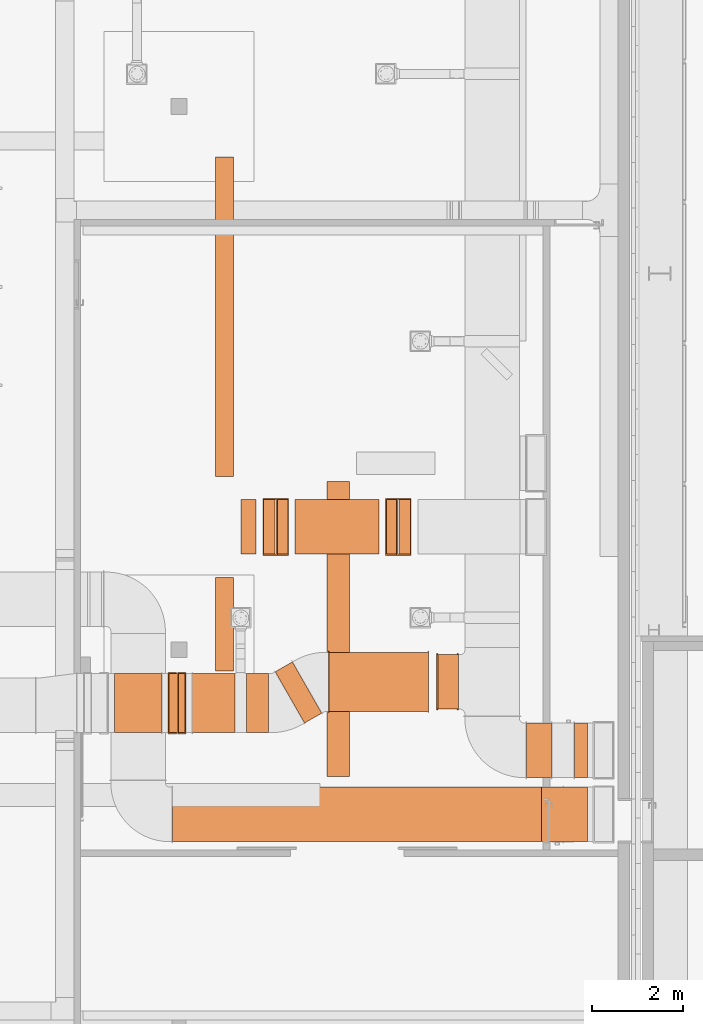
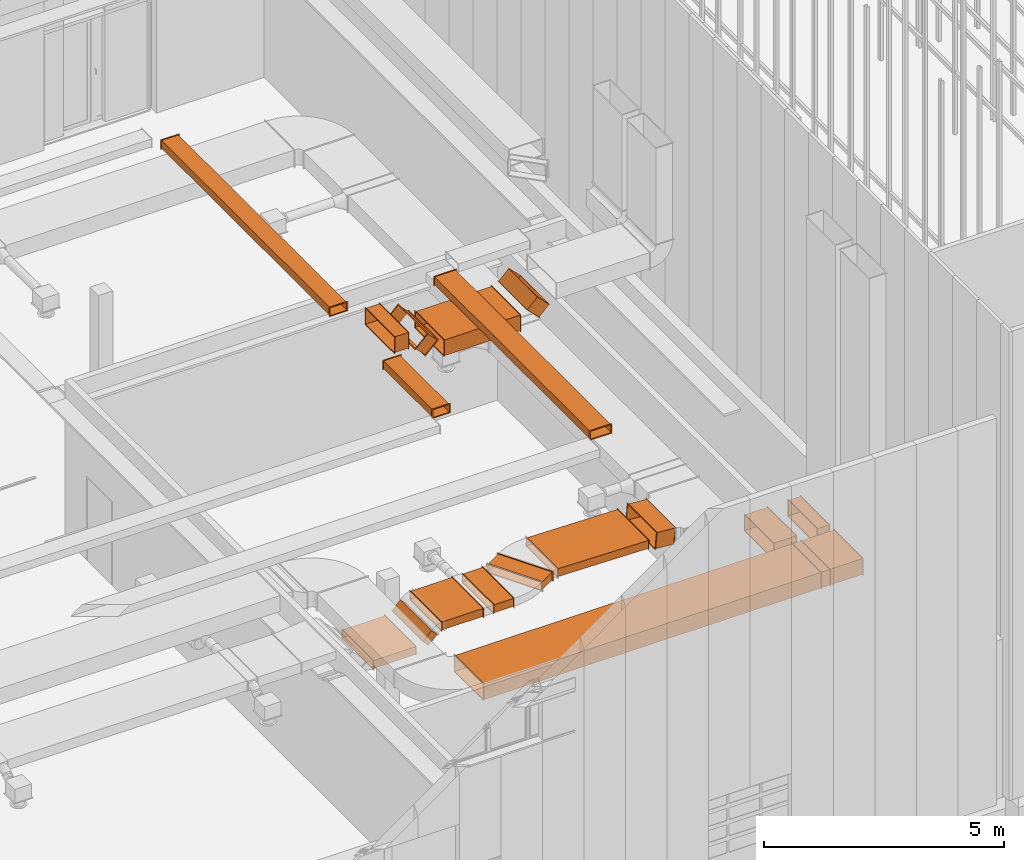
# One storey, part 299 of 302: 18 proxies.
"""IFC2X3 building model written with IfcOpenShell, lengths in metres."""

from ifc_helpers import new_model, entity, si_unit, converted_unit, derived_unit, direction, frame, origin, place, context, subcontext, project, spatial, face_set, surface_model, type_object, element, save


model = new_model("IFC2X3")

# Units and contexts
model_context = context("Model", 3, precision=1e-05, world=origin(), true_north=direction((6.12303176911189e-17, 1.0)))
body_context = subcontext(model_context, "Body", "Model", "MODEL_VIEW")
ifc_project = project(units=[si_unit("LENGTHUNIT", "METRE"), si_unit("AREAUNIT", "SQUARE_METRE"), si_unit("VOLUMEUNIT", "CUBIC_METRE"), converted_unit("PLANEANGLEUNIT", "DEGREE", entity("IfcRatioMeasure", 0.0174532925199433), si_unit("PLANEANGLEUNIT", "RADIAN"), dimensions=[0, 0, 0, 0, 0, 0, 0]), si_unit("MASSUNIT", "GRAM", prefix="KILO"), derived_unit("MASSDENSITYUNIT", [(si_unit("MASSUNIT", "GRAM", prefix="KILO"), 1), (si_unit("LENGTHUNIT", "METRE"), -3)]), derived_unit("MOMENTOFINERTIAUNIT", [(si_unit("LENGTHUNIT", "METRE"), 4)]), si_unit("TIMEUNIT", "SECOND"), si_unit("FREQUENCYUNIT", "HERTZ"), si_unit("THERMODYNAMICTEMPERATUREUNIT", "DEGREE_CELSIUS"), derived_unit("THERMALTRANSMITTANCEUNIT", [(si_unit("MASSUNIT", "GRAM", prefix="KILO"), 1), (si_unit("THERMODYNAMICTEMPERATUREUNIT", "KELVIN"), -1), (si_unit("TIMEUNIT", "SECOND"), -3)]), derived_unit("VOLUMETRICFLOWRATEUNIT", [(si_unit("LENGTHUNIT", "METRE"), 3), (si_unit("TIMEUNIT", "SECOND"), -1)]), si_unit("ELECTRICCURRENTUNIT", "AMPERE"), si_unit("ELECTRICVOLTAGEUNIT", "VOLT"), si_unit("POWERUNIT", "WATT"), si_unit("FORCEUNIT", "NEWTON", prefix="KILO"), si_unit("ILLUMINANCEUNIT", "LUX"), si_unit("LUMINOUSFLUXUNIT", "LUMEN"), si_unit("LUMINOUSINTENSITYUNIT", "CANDELA"), derived_unit("USERDEFINED", [(si_unit("MASSUNIT", "GRAM", prefix="KILO"), -1), (si_unit("LENGTHUNIT", "METRE"), -2), (si_unit("TIMEUNIT", "SECOND"), 3), (si_unit("LUMINOUSFLUXUNIT", "LUMEN"), 1)]), derived_unit("LINEARVELOCITYUNIT", [(si_unit("LENGTHUNIT", "METRE"), 1), (si_unit("TIMEUNIT", "SECOND"), -1)]), si_unit("PRESSUREUNIT", "PASCAL"), derived_unit("USERDEFINED", [(si_unit("LENGTHUNIT", "METRE"), -2), (si_unit("MASSUNIT", "GRAM", prefix="KILO"), 1), (si_unit("TIMEUNIT", "SECOND"), -2)]), derived_unit("LINEARFORCEUNIT", [(si_unit("MASSUNIT", "GRAM", prefix="KILO"), 1), (si_unit("LENGTHUNIT", "METRE"), 1), (si_unit("TIMEUNIT", "SECOND"), -2), (si_unit("LENGTHUNIT", "METRE"), -1)]), derived_unit("PLANARFORCEUNIT", [(si_unit("MASSUNIT", "GRAM", prefix="KILO"), 1), (si_unit("LENGTHUNIT", "METRE"), 1), (si_unit("TIMEUNIT", "SECOND"), -2), (si_unit("LENGTHUNIT", "METRE"), -2)])], contexts=[model_context])

# Site, building, storey
site_placement = place(None, origin())
site = spatial("IfcSite", under=ifc_project, at=site_placement, Name="Default", CompositionType="ELEMENT")
building_placement = place(site_placement, origin())
building = spatial("IfcBuilding", under=site, at=building_placement, CompositionType="ELEMENT")
storey_placement = place(building_placement, frame((0.0, 0.0, -1.3)))
storey = spatial("IfcBuildingStorey", under=building, at=storey_placement, Name="00_EG", CompositionType="ELEMENT", Elevation=-1.3)

# Proxies
building_element_proxy_type_1 = type_object("IfcBuildingElementProxyType", Name="Straight:Vorgabe", PredefinedType="NOTDEFINED")
proxy_1_placement = place(storey_placement, frame((-208.871606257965, 20.6086213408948, 4.68460000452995)))
element("IfcBuildingElementProxy", 1, at=proxy_1_placement, inside=storey, type_object=building_element_proxy_type_1, Name="Straight:Vorgabe", ObjectType="Straight:Vorgabe", context=body_context, shape_type="SurfaceModel", body=[
    surface_model("IfcFaceBasedSurfaceModel", [(0.29433768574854, 1.22540005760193, 0.425399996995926), (1.35561103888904e-09, 1.22540005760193, 0.425399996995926), (1.35561103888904e-09, 0.0254000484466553, 0.425399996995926), (0.29433768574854, 0.0254000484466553, 0.425399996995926), (1.35561103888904e-09, 0.0254000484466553, 0.0253999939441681), (0.29433768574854, 0.0254000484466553, 0.0253999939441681), (1.35561103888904e-09, 1.22540005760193, 0.0253999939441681), (0.29433768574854, 1.22540005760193, 0.0253999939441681), (0.294336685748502, 1.25080010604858, 0.0), (0.294336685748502, 1.25080010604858, 0.450799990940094), (0.294336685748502, 0.0, 0.450799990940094), (0.294336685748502, 0.0, 0.0), (9.82400380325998e-07, 0.0, 0.0), (9.82400380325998e-07, 0.0, 0.450799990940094), (9.82400380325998e-07, 1.25080010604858, 0.450799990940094), (9.82400380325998e-07, 1.25080010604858, 0.0)], [face_set([[[0, 1, 2]], [[2, 3, 0]], [[3, 2, 4]], [[4, 5, 3]], [[5, 4, 6]], [[6, 7, 5]], [[7, 6, 1]], [[1, 0, 7]], [[8, 7, 0]], [[0, 9, 8]], [[9, 0, 3]], [[3, 10, 9]], [[10, 3, 5]], [[5, 11, 10]], [[11, 5, 7]], [[7, 8, 11]], [[12, 4, 2]], [[2, 13, 12]], [[13, 2, 1]], [[1, 14, 13]], [[14, 1, 6]], [[6, 15, 14]], [[15, 6, 4]], [[4, 12, 15]]])]),
])
building_element_proxy_type_2 = type_object("IfcBuildingElementProxyType", Name="Straight:Vorgabe", PredefinedType="NOTDEFINED")
proxy_2_placement = place(storey_placement, frame((-209.597807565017, 19.1975856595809, 4.68460000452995)))
element("IfcBuildingElementProxy", 2, at=proxy_2_placement, inside=storey, type_object=building_element_proxy_type_2, Name="Straight:Vorgabe", ObjectType="Straight:Vorgabe", context=body_context, shape_type="SurfaceModel", body=[
    surface_model("IfcFaceBasedSurfaceModel", [(0.0, 0.0254000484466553, 0.425399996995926), (1.01231451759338, 0.0254000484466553, 0.425399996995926), (1.01231451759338, 1.22540005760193, 0.425399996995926), (0.0, 1.22540005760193, 0.425399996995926), (1.01231451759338, 1.22540005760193, 0.0253999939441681), (0.0, 1.22540005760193, 0.0253999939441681), (1.01231451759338, 0.0254000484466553, 0.0253999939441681), (0.0, 0.0254000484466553, 0.0253999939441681), (1.00000003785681e-06, 0.0, 0.0), (1.00000003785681e-06, 0.0, 0.450799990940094), (1.00000003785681e-06, 1.25080010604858, 0.450799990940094), (1.00000003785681e-06, 1.25080010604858, 0.0), (1.01231357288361, 1.25080010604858, 0.0), (1.01231357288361, 1.25080010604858, 0.450799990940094), (1.01231357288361, 0.0, 0.450799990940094), (1.01231357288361, 0.0, 0.0)], [face_set([[[0, 1, 2]], [[2, 3, 0]], [[3, 2, 4]], [[4, 5, 3]], [[5, 4, 6]], [[6, 7, 5]], [[7, 6, 1]], [[1, 0, 7]], [[8, 7, 0]], [[0, 9, 8]], [[9, 0, 3]], [[3, 10, 9]], [[10, 3, 5]], [[5, 11, 10]], [[11, 5, 7]], [[7, 8, 11]], [[12, 4, 2]], [[2, 13, 12]], [[13, 2, 1]], [[1, 14, 13]], [[14, 1, 6]], [[6, 15, 14]], [[15, 6, 4]], [[4, 12, 15]]])]),
])
building_element_proxy_type_3 = type_object("IfcBuildingElementProxyType", Name="Straight:Vorgabe", PredefinedType="NOTDEFINED")
proxy_3_placement = place(storey_placement, frame((-215.013870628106, 25.5256868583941, 8.65460000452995)))
element("IfcBuildingElementProxy", 3, at=proxy_3_placement, inside=storey, type_object=building_element_proxy_type_3, Name="Straight:Vorgabe", ObjectType="Straight:Vorgabe", context=body_context, shape_type="SurfaceModel", body=[
    surface_model("IfcFaceBasedSurfaceModel", [(0.0, 0.0254000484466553, 0.425399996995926), (1.83871625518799, 0.0254000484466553, 0.425399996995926), (1.83871625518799, 1.22540005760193, 0.425399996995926), (0.0, 1.22540005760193, 0.425399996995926), (1.83871625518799, 1.22540005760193, 0.0253999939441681), (0.0, 1.22540005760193, 0.0253999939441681), (1.83871625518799, 0.0254000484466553, 0.0253999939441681), (0.0, 0.0254000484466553, 0.0253999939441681), (1.00000003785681e-06, 0.0, 0.0), (1.00000003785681e-06, 0.0, 0.450799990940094), (1.00000003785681e-06, 1.25080010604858, 0.450799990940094), (1.00000003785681e-06, 1.25080010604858, 0.0), (1.83871523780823, 1.25080010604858, 0.0), (1.83871523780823, 1.25080010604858, 0.450799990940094), (1.83871523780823, 0.0, 0.450799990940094), (1.83871523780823, 0.0, 0.0)], [face_set([[[0, 1, 2]], [[2, 3, 0]], [[3, 2, 4]], [[4, 5, 3]], [[5, 4, 6]], [[6, 7, 5]], [[7, 6, 1]], [[1, 0, 7]], [[8, 7, 0]], [[0, 9, 8]], [[9, 0, 3]], [[3, 10, 9]], [[10, 3, 5]], [[5, 11, 10]], [[11, 5, 7]], [[7, 8, 11]], [[12, 4, 2]], [[2, 13, 12]], [[13, 2, 1]], [[1, 14, 13]], [[14, 1, 6]], [[6, 15, 14]], [[15, 6, 4]], [[4, 12, 15]]])]),
])
building_element_proxy_type_4 = type_object("IfcBuildingElementProxyType", Name="Straight:Vorgabe", PredefinedType="NOTDEFINED")
proxy_4_placement = place(storey_placement, frame((-217.717694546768, 19.1975806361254, 4.68460000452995)))
element("IfcBuildingElementProxy", 4, at=proxy_4_placement, inside=storey, type_object=building_element_proxy_type_4, Name="Straight:Vorgabe", ObjectType="Straight:Vorgabe", context=body_context, shape_type="SurfaceModel", body=[
    surface_model("IfcFaceBasedSurfaceModel", [(8.33988698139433, 1.22540005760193, 0.425399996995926), (1.08530557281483e-07, 1.22540005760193, 0.425399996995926), (1.08530557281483e-07, 0.0254000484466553, 0.425399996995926), (8.33988698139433, 0.0254000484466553, 0.425399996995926), (1.08530557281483e-07, 0.0254000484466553, 0.0253999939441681), (8.33988698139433, 0.0254000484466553, 0.0253999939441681), (1.08530557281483e-07, 1.22540005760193, 0.0253999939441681), (8.33988698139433, 1.22540005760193, 0.0253999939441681), (8.33988598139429, 1.25080010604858, 0.0), (8.33988598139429, 1.25080010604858, 0.450799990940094), (8.33988598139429, 0.0, 0.450799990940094), (8.33988598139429, 0.0, 0.0), (1.27125028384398e-06, 0.0, 0.0), (1.27125028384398e-06, 0.0, 0.450799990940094), (1.27125028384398e-06, 1.25080010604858, 0.450799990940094), (1.27125028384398e-06, 1.25080010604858, 0.0)], [face_set([[[0, 1, 2]], [[2, 3, 0]], [[3, 2, 4]], [[4, 5, 3]], [[5, 4, 6]], [[6, 7, 5]], [[7, 6, 1]], [[1, 0, 7]], [[8, 7, 0]], [[0, 9, 8]], [[9, 0, 3]], [[3, 10, 9]], [[10, 3, 5]], [[5, 11, 10]], [[11, 5, 7]], [[7, 8, 11]], [[12, 4, 2]], [[2, 13, 12]], [[13, 2, 1]], [[1, 14, 13]], [[14, 1, 6]], [[6, 15, 14]], [[15, 6, 4]], [[4, 12, 15]]])]),
])
building_element_proxy_type_5 = type_object("IfcBuildingElementProxyType", Name="Straight:Vorgabe", PredefinedType="NOTDEFINED")
proxy_5_placement = place(storey_placement, frame((-211.904311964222, 22.1170213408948, 4.6853505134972)))
element("IfcBuildingElementProxy", 5, at=proxy_5_placement, inside=storey, type_object=building_element_proxy_type_5, Name="Straight:Vorgabe", ObjectType="Straight:Vorgabe", context=body_context, shape_type="SurfaceModel", body=[
    surface_model("IfcFaceBasedSurfaceModel", [(0.485078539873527, 1.22540005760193, 0.423983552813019), (0.0346857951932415, 1.22540005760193, 0.460829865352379), (0.0346857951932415, 0.0254000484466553, 0.460829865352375), (0.485078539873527, 0.0254000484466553, 0.423983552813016), (0.00207103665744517, 0.0254000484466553, 0.062161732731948), (0.45246378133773, 0.0254000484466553, 0.0253154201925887), (0.00207103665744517, 1.22540005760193, 0.0621617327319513), (0.45246378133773, 1.22540005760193, 0.0253154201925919), (0.450391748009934, 1.25080010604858, 8.15369028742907e-08), (0.487148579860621, 1.25080010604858, 0.449299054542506), (0.487148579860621, 0.0, 0.449299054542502), (0.450391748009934, 0.0, 8.15368985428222e-08), (1.01399220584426e-06, 0.0, 0.0368462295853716), (0.0367578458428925, 0.0, 0.486145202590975), (0.0367578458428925, 1.25080010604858, 0.486145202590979), (1.01399220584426e-06, 1.25080010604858, 0.0368462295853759)], [face_set([[[0, 1, 2]], [[2, 3, 0]], [[3, 2, 4]], [[4, 5, 3]], [[5, 4, 6]], [[6, 7, 5]], [[7, 6, 1]], [[1, 0, 7]], [[8, 7, 0]], [[0, 9, 8]], [[9, 0, 3]], [[3, 10, 9]], [[10, 3, 5]], [[5, 11, 10]], [[11, 5, 7]], [[7, 8, 11]], [[12, 4, 2]], [[2, 13, 12]], [[13, 2, 1]], [[1, 14, 13]], [[14, 1, 6]], [[6, 15, 14]], [[15, 6, 4]], [[4, 12, 15]]])]),
])
building_element_proxy_type_6 = type_object("IfcBuildingElementProxyType", Name="Straight:Vorgabe", PredefinedType="NOTDEFINED")
proxy_6_placement = place(storey_placement, frame((-214.279709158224, 22.0670213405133, 4.83158744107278)))
element("IfcBuildingElementProxy", 6, at=proxy_6_placement, inside=storey, type_object=building_element_proxy_type_6, Name="Straight:Vorgabe", ObjectType="Straight:Vorgabe", context=body_context, shape_type="SurfaceModel", body=[
    surface_model("IfcFaceBasedSurfaceModel", [(2.1960911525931, 1.32540005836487, 0.225356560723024), (0.00442522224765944, 1.32540005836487, 0.268393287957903), (0.00442522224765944, 0.0254000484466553, 0.268393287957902), (2.1960911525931, 0.0254000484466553, 0.225356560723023), (0.000498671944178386, 0.0254000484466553, 0.0684318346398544), (2.19216460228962, 0.0254000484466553, 0.0253951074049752), (0.000498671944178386, 1.32540005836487, 0.0684318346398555), (2.19216460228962, 1.32540005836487, 0.0253951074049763), (2.19166493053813, 1.35080010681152, 1.96327530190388e-08), (2.19658882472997, 1.35080010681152, 0.250751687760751), (2.19658882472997, 0.0, 0.25075168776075), (2.19166493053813, 0.0, 1.96327519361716e-08), (1.01718366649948e-06, 0.0, 0.0430367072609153), (0.00492491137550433, 0.0, 0.293788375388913), (0.00492491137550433, 1.35080010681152, 0.293788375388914), (1.01718366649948e-06, 1.35080010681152, 0.0430367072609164)], [face_set([[[0, 1, 2]], [[2, 3, 0]], [[3, 2, 4]], [[4, 5, 3]], [[5, 4, 6]], [[6, 7, 5]], [[7, 6, 1]], [[1, 0, 7]], [[8, 7, 0]], [[0, 9, 8]], [[9, 0, 3]], [[3, 10, 9]], [[10, 3, 5]], [[5, 11, 10]], [[11, 5, 7]], [[7, 8, 11]], [[12, 4, 2]], [[2, 13, 12]], [[13, 2, 1]], [[1, 14, 13]], [[14, 1, 6]], [[6, 15, 14]], [[15, 6, 4]], [[4, 12, 15]]])]),
])
building_element_proxy_type_7 = type_object("IfcBuildingElementProxyType", Name="Straight:Vorgabe", PredefinedType="NOTDEFINED")
proxy_7_placement = place(storey_placement, frame((-209.924540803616, 20.6086213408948, 4.68460000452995)))
element("IfcBuildingElementProxy", 7, at=proxy_7_placement, inside=storey, type_object=building_element_proxy_type_7, Name="Straight:Vorgabe", ObjectType="Straight:Vorgabe", context=body_context, shape_type="SurfaceModel", body=[
    surface_model("IfcFaceBasedSurfaceModel", [(0.0, 0.0254000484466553, 0.425399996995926), (0.552934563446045, 0.0254000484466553, 0.425399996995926), (0.552934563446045, 1.22540005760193, 0.425399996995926), (0.0, 1.22540005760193, 0.425399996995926), (0.552934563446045, 1.22540005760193, 0.0253999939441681), (0.0, 1.22540005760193, 0.0253999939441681), (0.552934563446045, 0.0254000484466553, 0.0253999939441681), (0.0, 0.0254000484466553, 0.0253999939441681), (1.00000003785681e-06, 0.0, 0.0), (1.00000003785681e-06, 0.0, 0.450799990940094), (1.00000003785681e-06, 1.25080010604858, 0.450799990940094), (1.00000003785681e-06, 1.25080010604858, 0.0), (0.552933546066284, 1.25080010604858, 0.0), (0.552933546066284, 1.25080010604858, 0.450799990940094), (0.552933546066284, 0.0, 0.450799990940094), (0.552933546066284, 0.0, 0.0)], [face_set([[[0, 1, 2]], [[2, 3, 0]], [[3, 2, 4]], [[4, 5, 3]], [[5, 4, 6]], [[6, 7, 5]], [[7, 6, 1]], [[1, 0, 7]], [[8, 7, 0]], [[0, 9, 8]], [[9, 0, 3]], [[3, 10, 9]], [[10, 3, 5]], [[5, 11, 10]], [[11, 5, 7]], [[7, 8, 11]], [[12, 4, 2]], [[2, 13, 12]], [[13, 2, 1]], [[1, 14, 13]], [[14, 1, 6]], [[6, 15, 14]], [[15, 6, 4]], [[4, 12, 15]]])]),
])
building_element_proxy_type_8 = type_object("IfcBuildingElementProxyType", Name="Straight:Vorgabe", PredefinedType="NOTDEFINED")
proxy_8_placement = place(storey_placement, frame((-213.028513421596, 25.5256868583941, 8.84737696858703)))
element("IfcBuildingElementProxy", 8, at=proxy_8_placement, inside=storey, type_object=building_element_proxy_type_8, Name="Straight:Vorgabe", ObjectType="Straight:Vorgabe", context=body_context, shape_type="SurfaceModel", body=[
    surface_model("IfcFaceBasedSurfaceModel", [(0.264442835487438, 1.22540005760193, 0.547285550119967), (0.0179605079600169, 1.22540005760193, 0.30080322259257), (0.0179605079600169, 0.0254000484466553, 0.30080322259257), (0.264442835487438, 0.0254000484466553, 0.547285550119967), (0.300803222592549, 0.0254000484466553, 0.0179605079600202), (0.54728555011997, 0.0254000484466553, 0.264442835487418), (0.300803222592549, 1.22540005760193, 0.0179605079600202), (0.54728555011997, 1.22540005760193, 0.264442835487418), (0.565245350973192, 1.25080010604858, 0.246481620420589), (0.246481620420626, 1.25080010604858, 0.565245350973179), (0.246481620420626, 0.0, 0.565245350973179), (0.565245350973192, 0.0, 0.246481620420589), (0.318764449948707, 0.0, 7.19396127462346e-07), (7.19396141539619e-07, 0.0, 0.318764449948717), (7.19396141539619e-07, 1.25080010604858, 0.318764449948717), (0.318764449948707, 1.25080010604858, 7.19396127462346e-07)], [face_set([[[0, 1, 2]], [[2, 3, 0]], [[3, 2, 4]], [[4, 5, 3]], [[5, 4, 6]], [[6, 7, 5]], [[7, 6, 1]], [[1, 0, 7]], [[8, 7, 0]], [[0, 9, 8]], [[9, 0, 3]], [[3, 10, 9]], [[10, 3, 5]], [[5, 11, 10]], [[11, 5, 7]], [[7, 8, 11]], [[12, 4, 2]], [[2, 13, 12]], [[13, 2, 1]], [[1, 14, 13]], [[14, 1, 6]], [[6, 15, 14]], [[15, 6, 4]], [[4, 12, 15]]])]),
])
building_element_proxy_type_9 = type_object("IfcBuildingElementProxyType", Name="Straight:Vorgabe", PredefinedType="NOTDEFINED")
proxy_9_placement = place(storey_placement, frame((-215.725757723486, 25.5256868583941, 8.84737696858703)))
element("IfcBuildingElementProxy", 9, at=proxy_9_placement, inside=storey, type_object=building_element_proxy_type_9, Name="Straight:Vorgabe", ObjectType="Straight:Vorgabe", context=body_context, shape_type="SurfaceModel", body=[
    surface_model("IfcFaceBasedSurfaceModel", [(0.300803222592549, 0.0254000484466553, 0.547285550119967), (0.54728555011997, 0.0254000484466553, 0.30080322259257), (0.54728555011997, 1.22540005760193, 0.30080322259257), (0.300803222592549, 1.22540005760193, 0.547285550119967), (0.264442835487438, 1.22540005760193, 0.0179605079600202), (0.0179605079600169, 1.22540005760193, 0.264442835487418), (0.264442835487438, 0.0254000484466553, 0.0179605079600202), (0.0179605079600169, 0.0254000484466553, 0.264442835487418), (7.07106795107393e-07, 0.0, 0.246481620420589), (0.318764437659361, 0.0, 0.565245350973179), (0.318764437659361, 1.25080010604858, 0.565245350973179), (7.07106795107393e-07, 1.25080010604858, 0.246481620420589), (0.24648160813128, 1.25080010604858, 7.19396127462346e-07), (0.565245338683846, 1.25080010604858, 0.318764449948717), (0.565245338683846, 0.0, 0.318764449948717), (0.24648160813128, 0.0, 7.19396127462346e-07)], [face_set([[[0, 1, 2]], [[2, 3, 0]], [[3, 2, 4]], [[4, 5, 3]], [[5, 4, 6]], [[6, 7, 5]], [[7, 6, 1]], [[1, 0, 7]], [[8, 7, 0]], [[0, 9, 8]], [[9, 0, 3]], [[3, 10, 9]], [[10, 3, 5]], [[5, 11, 10]], [[11, 5, 7]], [[7, 8, 11]], [[12, 4, 2]], [[2, 13, 12]], [[13, 2, 1]], [[1, 14, 13]], [[14, 1, 6]], [[6, 15, 14]], [[15, 6, 4]], [[4, 12, 15]]])]),
])
building_element_proxy_type_10 = type_object("IfcBuildingElementProxyType", Name="Straight:Vorgabe", PredefinedType="NOTDEFINED")
proxy_10_placement = place(storey_placement, frame((-216.211221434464, 25.5256868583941, 9.15460000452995)))
element("IfcBuildingElementProxy", 10, at=proxy_10_placement, inside=storey, type_object=building_element_proxy_type_10, Name="Straight:Vorgabe", ObjectType="Straight:Vorgabe", context=body_context, shape_type="SurfaceModel", body=[
    surface_model("IfcFaceBasedSurfaceModel", [(0.338822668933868, 1.22540005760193, 0.425399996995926), (0.0, 1.22540005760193, 0.425399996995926), (0.0, 0.0254000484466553, 0.425399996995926), (0.338822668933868, 0.0254000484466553, 0.425399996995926), (0.0, 0.0254000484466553, 0.0253999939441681), (0.338822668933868, 0.0254000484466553, 0.0253999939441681), (0.0, 1.22540005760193, 0.0253999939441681), (0.338822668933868, 1.22540005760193, 0.0253999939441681), (0.338821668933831, 1.25080010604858, 0.0), (0.338821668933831, 1.25080010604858, 0.450799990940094), (0.338821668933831, 0.0, 0.450799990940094), (0.338821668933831, 0.0, 0.0), (1.01737976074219e-06, 0.0, 0.0), (1.01737976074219e-06, 0.0, 0.450799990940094), (1.01737976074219e-06, 1.25080010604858, 0.450799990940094), (1.01737976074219e-06, 1.25080010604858, 0.0)], [face_set([[[0, 1, 2]], [[2, 3, 0]], [[3, 2, 4]], [[4, 5, 3]], [[5, 4, 6]], [[6, 7, 5]], [[7, 6, 1]], [[1, 0, 7]], [[8, 7, 0]], [[0, 9, 8]], [[9, 0, 3]], [[3, 10, 9]], [[10, 3, 5]], [[5, 11, 10]], [[11, 5, 7]], [[7, 8, 11]], [[12, 4, 2]], [[2, 13, 12]], [[13, 2, 1]], [[1, 14, 13]], [[14, 1, 6]], [[6, 15, 14]], [[15, 6, 4]], [[4, 12, 15]]])]),
])
building_element_proxy_type_11 = type_object("IfcBuildingElementProxyType", Name="Straight:Vorgabe", PredefinedType="NOTDEFINED")
proxy_11_placement = place(storey_placement, frame((-218.989142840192, 21.5969453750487, 4.46959999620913)))
element("IfcBuildingElementProxy", 11, at=proxy_11_placement, inside=storey, type_object=building_element_proxy_type_11, Name="Straight:Vorgabe", ObjectType="Straight:Vorgabe", context=body_context, shape_type="SurfaceModel", body=[
    surface_model("IfcFaceBasedSurfaceModel", [(1.03293716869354, 1.32540005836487, 0.225400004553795), (0.0, 1.32540005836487, 0.225400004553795), (0.0, 0.0254000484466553, 0.225400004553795), (1.03293716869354, 0.0254000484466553, 0.225400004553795), (0.0, 0.0254000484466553, 0.025400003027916), (1.03293716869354, 0.0254000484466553, 0.025400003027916), (0.0, 1.32540005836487, 0.025400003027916), (1.03293716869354, 1.32540005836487, 0.025400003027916), (1.0329361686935, 1.35080010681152, 0.0), (1.0329361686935, 1.35080010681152, 0.250800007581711), (1.0329361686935, 0.0, 0.250800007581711), (1.0329361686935, 0.0, 0.0), (1.01737976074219e-06, 0.0, 0.0), (1.01737976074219e-06, 0.0, 0.250800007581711), (1.01737976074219e-06, 1.35080010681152, 0.250800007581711), (1.01737976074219e-06, 1.35080010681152, 0.0)], [face_set([[[0, 1, 2]], [[2, 3, 0]], [[3, 2, 4]], [[4, 5, 3]], [[5, 4, 6]], [[6, 7, 5]], [[7, 6, 1]], [[1, 0, 7]], [[8, 7, 0]], [[0, 9, 8]], [[9, 0, 3]], [[3, 10, 9]], [[10, 3, 5]], [[5, 11, 10]], [[11, 5, 7]], [[7, 8, 11]], [[12, 4, 2]], [[2, 13, 12]], [[13, 2, 1]], [[1, 14, 13]], [[14, 1, 6]], [[6, 15, 14]], [[15, 6, 4]], [[4, 12, 15]]])]),
])
building_element_proxy_type_12 = type_object("IfcBuildingElementProxyType", Name="Straight:Vorgabe", PredefinedType="NOTDEFINED")
proxy_12_placement = place(storey_placement, frame((-216.089864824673, 21.5969453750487, 4.87459999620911)))
element("IfcBuildingElementProxy", 12, at=proxy_12_placement, inside=storey, type_object=building_element_proxy_type_12, Name="Straight:Vorgabe", ObjectType="Straight:Vorgabe", context=body_context, shape_type="SurfaceModel", body=[
    surface_model("IfcFaceBasedSurfaceModel", [(0.482882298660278, 1.32540005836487, 0.225400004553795), (0.0, 1.32540005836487, 0.225400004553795), (0.0, 0.0254000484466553, 0.225400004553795), (0.482882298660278, 0.0254000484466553, 0.225400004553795), (0.0, 0.0254000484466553, 0.025400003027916), (0.482882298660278, 0.0254000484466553, 0.025400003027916), (0.0, 1.32540005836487, 0.025400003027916), (0.482882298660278, 1.32540005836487, 0.025400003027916), (0.48288129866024, 1.35080010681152, 0.0), (0.48288129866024, 1.35080010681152, 0.250800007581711), (0.48288129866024, 0.0, 0.250800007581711), (0.48288129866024, 0.0, 0.0), (1.01737976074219e-06, 0.0, 0.0), (1.01737976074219e-06, 0.0, 0.250800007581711), (1.01737976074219e-06, 1.35080010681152, 0.250800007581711), (1.01737976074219e-06, 1.35080010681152, 0.0)], [face_set([[[0, 1, 2]], [[2, 3, 0]], [[3, 2, 4]], [[4, 5, 3]], [[5, 4, 6]], [[6, 7, 5]], [[7, 6, 1]], [[1, 0, 7]], [[8, 7, 0]], [[0, 9, 8]], [[9, 0, 3]], [[3, 10, 9]], [[10, 3, 5]], [[5, 11, 10]], [[11, 5, 7]], [[7, 8, 11]], [[12, 4, 2]], [[2, 13, 12]], [[13, 2, 1]], [[1, 14, 13]], [[14, 1, 6]], [[6, 15, 14]], [[15, 6, 4]], [[4, 12, 15]]])]),
])
building_element_proxy_type_13 = type_object("IfcBuildingElementProxyType", Name="Straight:Vorgabe", PredefinedType="NOTDEFINED")
proxy_13_placement = place(storey_placement, frame((-217.80956464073, 21.5969453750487, 4.6037983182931)))
element("IfcBuildingElementProxy", 13, at=proxy_13_placement, inside=storey, type_object=building_element_proxy_type_13, Name="Straight:Vorgabe", ObjectType="Straight:Vorgabe", context=body_context, shape_type="SurfaceModel", body=[
    surface_model("IfcFaceBasedSurfaceModel", [(0.228021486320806, 1.32540005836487, 0.369442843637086), (0.0179605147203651, 1.32540005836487, 0.159381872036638), (0.0179605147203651, 0.0254000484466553, 0.159381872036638), (0.228021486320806, 0.0254000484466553, 0.369442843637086), (0.159381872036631, 0.0254000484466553, 0.0179605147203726), (0.369442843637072, 0.0254000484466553, 0.228021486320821), (0.159381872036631, 1.32540005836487, 0.0179605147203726), (0.369442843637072, 1.32540005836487, 0.228021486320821), (0.387402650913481, 1.35080010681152, 0.210060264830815), (0.210060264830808, 1.35080010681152, 0.387402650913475), (0.210060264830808, 0.0, 0.387402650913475), (0.387402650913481, 0.0, 0.210060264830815), (0.177343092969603, 0.0, 7.06886943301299e-07), (7.0688692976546e-07, 0.0, 0.177343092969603), (7.0688692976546e-07, 1.35080010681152, 0.177343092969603), (0.177343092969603, 1.35080010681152, 7.06886943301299e-07)], [face_set([[[0, 1, 2]], [[2, 3, 0]], [[3, 2, 4]], [[4, 5, 3]], [[5, 4, 6]], [[6, 7, 5]], [[7, 6, 1]], [[1, 0, 7]], [[8, 7, 0]], [[0, 9, 8]], [[9, 0, 3]], [[3, 10, 9]], [[10, 3, 5]], [[5, 11, 10]], [[11, 5, 7]], [[7, 8, 11]], [[12, 4, 2]], [[2, 13, 12]], [[13, 2, 1]], [[1, 14, 13]], [[14, 1, 6]], [[6, 15, 14]], [[15, 6, 4]], [[4, 12, 15]]])]),
])
building_element_proxy_type_14 = type_object("IfcBuildingElementProxyType", Name="Straight:Vorgabe", PredefinedType="NOTDEFINED")
proxy_14_placement = place(storey_placement, frame((-215.467174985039, 21.8128916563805, 4.87459999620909)))
element("IfcBuildingElementProxy", 14, at=proxy_14_placement, inside=storey, type_object=building_element_proxy_type_14, Name="Straight:Vorgabe", ObjectType="Straight:Vorgabe", context=body_context, shape_type="SurfaceModel", body=[
    surface_model("IfcFaceBasedSurfaceModel", [(0.658880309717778, 0.0220391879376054, 0.225400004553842), (1.03749352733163, 0.238956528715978, 0.2254000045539), (0.391240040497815, 1.36694431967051, 0.225400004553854), (0.0126268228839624, 1.15002697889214, 0.225400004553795), (0.391240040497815, 1.36694431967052, 0.025400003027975), (0.0126268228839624, 1.15002697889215, 0.0254000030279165), (1.03749352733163, 0.238956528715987, 0.0254000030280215), (0.658880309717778, 0.0220391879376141, 0.0254000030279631), (0.671508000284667, 4.97118089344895e-07, 0.0), (0.671508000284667, 4.97118080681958e-07, 0.250800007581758), (8.67682926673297e-07, 1.17206666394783, 0.250800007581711), (8.67682926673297e-07, 1.17206666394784, 0.0), (0.378612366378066, 1.38898301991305, 0.0), (0.378612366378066, 1.38898301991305, 0.250800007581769), (1.05011949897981, 0.216916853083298, 0.250800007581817), (1.05011949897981, 0.216916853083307, 0.0)], [face_set([[[0, 1, 2]], [[2, 3, 0]], [[3, 2, 4]], [[4, 5, 3]], [[5, 4, 6]], [[6, 7, 5]], [[7, 6, 1]], [[1, 0, 7]], [[8, 7, 0]], [[0, 9, 8]], [[9, 0, 3]], [[3, 10, 9]], [[10, 3, 5]], [[5, 11, 10]], [[11, 5, 7]], [[7, 8, 11]], [[12, 4, 2]], [[2, 13, 12]], [[13, 2, 1]], [[1, 14, 13]], [[14, 1, 6]], [[6, 15, 14]], [[15, 6, 4]], [[4, 12, 15]]])]),
])
building_element_proxy_type_15 = type_object("IfcBuildingElementProxyType", Name="Straight:Vorgabe", PredefinedType="NOTDEFINED")
proxy_15_placement = place(storey_placement, frame((-217.348996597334, 21.5969453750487, 4.87459999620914)))
element("IfcBuildingElementProxy", 15, at=proxy_15_placement, inside=storey, type_object=building_element_proxy_type_15, Name="Straight:Vorgabe", ObjectType="Straight:Vorgabe", context=body_context, shape_type="SurfaceModel", body=[
    surface_model("IfcFaceBasedSurfaceModel", [(1.00913179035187, 1.32540005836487, 0.225400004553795), (0.0, 1.32540005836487, 0.225400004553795), (0.0, 0.0254000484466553, 0.225400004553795), (1.00913179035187, 0.0254000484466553, 0.225400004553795), (0.0, 0.0254000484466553, 0.025400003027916), (1.00913179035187, 0.0254000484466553, 0.025400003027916), (0.0, 1.32540005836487, 0.025400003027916), (1.00913179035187, 1.32540005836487, 0.025400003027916), (1.00913079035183, 1.35080010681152, 0.0), (1.00913079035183, 1.35080010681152, 0.250800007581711), (1.00913079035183, 0.0, 0.250800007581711), (1.00913079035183, 0.0, 0.0), (1.01737976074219e-06, 0.0, 0.0), (1.01737976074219e-06, 0.0, 0.250800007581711), (1.01737976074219e-06, 1.35080010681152, 0.250800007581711), (1.01737976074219e-06, 1.35080010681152, 0.0)], [face_set([[[0, 1, 2]], [[2, 3, 0]], [[3, 2, 4]], [[4, 5, 3]], [[5, 4, 6]], [[6, 7, 5]], [[7, 6, 1]], [[1, 0, 7]], [[8, 7, 0]], [[0, 9, 8]], [[9, 0, 3]], [[3, 10, 9]], [[10, 3, 5]], [[5, 11, 10]], [[11, 5, 7]], [[7, 8, 11]], [[12, 4, 2]], [[2, 13, 12]], [[13, 2, 1]], [[1, 14, 13]], [[14, 1, 6]], [[6, 15, 14]], [[15, 6, 4]], [[4, 12, 15]]])]),
])
building_element_proxy_type_16 = type_object("IfcBuildingElementProxyType", Name="Straight:Vorgabe", PredefinedType="NOTDEFINED")
proxy_16_placement = place(storey_placement, frame((-214.343328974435, 20.6582095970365, 9.25459999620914)))
element("IfcBuildingElementProxy", 16, at=proxy_16_placement, inside=storey, type_object=building_element_proxy_type_16, Name="Straight:Vorgabe", ObjectType="Straight:Vorgabe", context=body_context, shape_type="SurfaceModel", body=[
    surface_model("IfcFaceBasedSurfaceModel", [(0.525399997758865, 0.0, 0.225400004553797), (0.525399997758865, 6.49193571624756, 0.225400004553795), (0.0253999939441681, 6.49193571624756, 0.225400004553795), (0.0253999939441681, 0.0, 0.225400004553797), (0.0253999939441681, 6.49193571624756, 0.025400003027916), (0.0253999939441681, 0.0, 0.0254000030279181), (0.525399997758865, 6.49193571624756, 0.025400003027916), (0.525399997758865, 0.0, 0.0254000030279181), (0.550799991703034, 1.00000003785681e-06, 0.0), (0.550799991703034, 1.00000003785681e-06, 0.250800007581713), (0.0, 1.00000003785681e-06, 0.250800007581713), (0.0, 1.00000003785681e-06, 0.0), (0.0, 6.49193455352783, 0.0), (0.0, 6.49193455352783, 0.250800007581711), (0.550799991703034, 6.49193455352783, 0.250800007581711), (0.550799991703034, 6.49193455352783, 0.0)], [face_set([[[0, 1, 2]], [[2, 3, 0]], [[3, 2, 4]], [[4, 5, 3]], [[5, 4, 6]], [[6, 7, 5]], [[7, 6, 1]], [[1, 0, 7]], [[8, 7, 0]], [[0, 9, 8]], [[9, 0, 3]], [[3, 10, 9]], [[10, 3, 5]], [[5, 11, 10]], [[11, 5, 7]], [[7, 8, 11]], [[12, 4, 2]], [[2, 13, 12]], [[13, 2, 1]], [[1, 14, 13]], [[14, 1, 6]], [[6, 15, 14]], [[15, 6, 4]], [[4, 12, 15]]])]),
])
building_element_proxy_type_17 = type_object("IfcBuildingElementProxyType", Name="Straight:Vorgabe", PredefinedType="NOTDEFINED")
proxy_17_placement = place(storey_placement, frame((-216.79262141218, 22.9830708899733, 9.25459999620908)))
element("IfcBuildingElementProxy", 17, at=proxy_17_placement, inside=storey, type_object=building_element_proxy_type_17, Name="Straight:Vorgabe", ObjectType="Straight:Vorgabe", context=body_context, shape_type="SurfaceModel", body=[
    surface_model("IfcFaceBasedSurfaceModel", [(0.425399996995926, 0.0, 0.225400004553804), (0.425399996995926, 2.05141606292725, 0.225400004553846), (0.0253999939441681, 2.05141606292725, 0.225400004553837), (0.0253999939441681, 0.0, 0.225400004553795), (0.0253999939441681, 2.05141606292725, 0.0254000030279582), (0.0253999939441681, 0.0, 0.025400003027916), (0.425399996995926, 2.05141606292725, 0.0254000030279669), (0.425399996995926, 0.0, 0.0254000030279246), (0.450799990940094, 1.00000004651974e-06, 0.0), (0.450799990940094, 1.00000003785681e-06, 0.25080000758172), (0.0, 1.00000003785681e-06, 0.250800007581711), (0.0, 1.00000004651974e-06, 0.0), (0.0, 2.05141504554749, 0.0), (0.0, 2.05141504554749, 0.250800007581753), (0.450799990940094, 2.05141504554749, 0.250800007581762), (0.450799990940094, 2.05141504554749, 0.0)], [face_set([[[0, 1, 2]], [[2, 3, 0]], [[3, 2, 4]], [[4, 5, 3]], [[5, 4, 6]], [[6, 7, 5]], [[7, 6, 1]], [[1, 0, 7]], [[8, 7, 0]], [[0, 9, 8]], [[9, 0, 3]], [[3, 10, 9]], [[10, 3, 5]], [[5, 11, 10]], [[11, 5, 7]], [[7, 8, 11]], [[12, 4, 2]], [[2, 13, 12]], [[13, 2, 1]], [[1, 14, 13]], [[14, 1, 6]], [[6, 15, 14]], [[15, 6, 4]], [[4, 12, 15]]])]),
])
building_element_proxy_type_18 = type_object("IfcBuildingElementProxyType", Name="Straight:Vorgabe", PredefinedType="NOTDEFINED")
proxy_18_placement = place(storey_placement, frame((-216.79262141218, 27.2644869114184, 9.25459999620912)))
element("IfcBuildingElementProxy", 18, at=proxy_18_placement, inside=storey, type_object=building_element_proxy_type_18, Name="Straight:Vorgabe", ObjectType="Straight:Vorgabe", context=body_context, shape_type="SurfaceModel", body=[
    surface_model("IfcFaceBasedSurfaceModel", [(0.0253999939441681, 7.02527558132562, 0.225400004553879), (0.0253999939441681, 3.26503844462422e-07, 0.225400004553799), (0.425399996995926, 3.26503844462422e-07, 0.225400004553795), (0.425399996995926, 7.02527558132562, 0.225400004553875), (0.425399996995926, 3.26503844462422e-07, 0.025400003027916), (0.425399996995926, 7.02527558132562, 0.0254000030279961), (0.0253999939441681, 3.26503844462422e-07, 0.0254000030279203), (0.0253999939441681, 7.02527558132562, 0.0254000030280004), (0.0, 7.02527458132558, 0.0), (0.0, 7.02527458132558, 0.250800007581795), (0.450799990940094, 7.02527458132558, 0.250800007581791), (0.450799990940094, 7.02527458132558, 0.0), (0.450799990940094, 9.07863707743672e-07, 0.0), (0.450799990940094, 9.07863707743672e-07, 0.250800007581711), (0.0, 9.07863707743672e-07, 0.250800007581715), (0.0, 9.07863707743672e-07, 0.0)], [face_set([[[0, 1, 2]], [[2, 3, 0]], [[3, 2, 4]], [[4, 5, 3]], [[5, 4, 6]], [[6, 7, 5]], [[7, 6, 1]], [[1, 0, 7]], [[8, 7, 0]], [[0, 9, 8]], [[9, 0, 3]], [[3, 10, 9]], [[10, 3, 5]], [[5, 11, 10]], [[11, 5, 7]], [[7, 8, 11]], [[12, 4, 2]], [[2, 13, 12]], [[13, 2, 1]], [[1, 14, 13]], [[14, 1, 6]], [[6, 15, 14]], [[15, 6, 4]], [[4, 12, 15]]])]),
])

save(model, "model.ifc")
